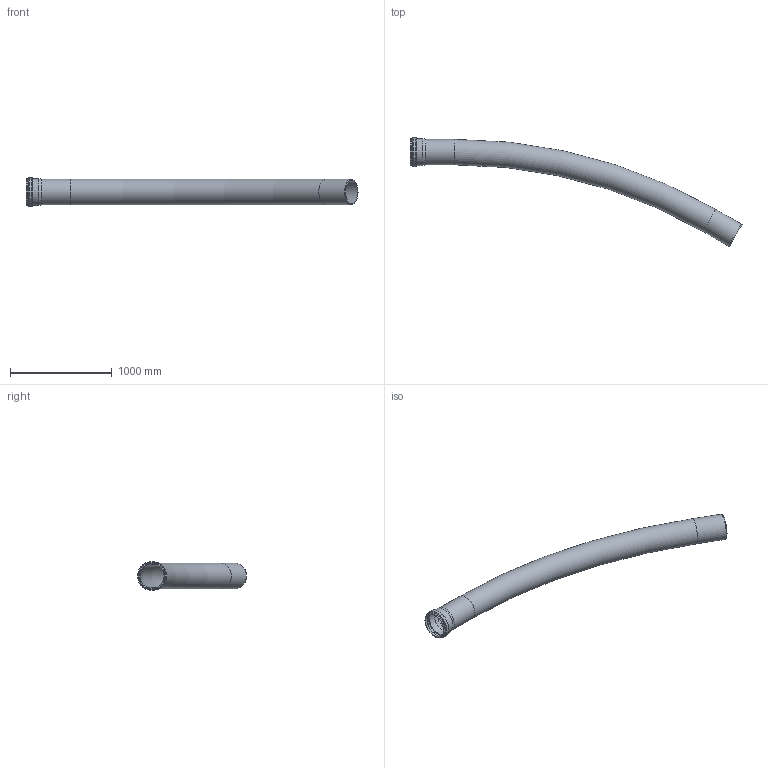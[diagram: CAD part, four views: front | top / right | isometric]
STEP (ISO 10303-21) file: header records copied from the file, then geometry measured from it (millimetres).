
FILE_DESCRIPTION(/* description */ (''),/* implementation_level */ '2;1');
FILE_NAME(/* name */ '734260z.stp',/* time_stamp */ '2026-05-08T11:18:26+02:00',/* author */ ('corinna'),/* organization */ (''),/* preprocessor_version */ 'ST-DEVELOPER v20',/* originating_system */ 'Autodesk Inventor 2024',/* authorisation */ '');
FILE_SCHEMA (('AUTOMOTIVE_DESIGN { 1 0 10303 214 3 1 1 }'));
Length unit declared in the file: millimetre
Products named in the file (1): 734260z
Bounding box: 3258.24 x 1068.87 x 285.2 mm (x, y, z)
Volume: 19682815.5 mm3; surface area: 5162975.6 mm2
Topology: 1 solids, 1 shells, 39 faces, 94 edges, 60 vertices
Faces by surface type: torus 16, cylinder 10, cone 8, plane 5
Full cylindrical faces by diameter (mm): 234.6 x2, 250 x2, 250.4 x1, 251 x1, 262 x1, 265 x1, 273.6 x1, 285.2 x1
Entity records: 1227 total; most frequent: DIRECTION 250, CARTESIAN_POINT 194, ORIENTED_EDGE 188, AXIS2_PLACEMENT_3D 116, EDGE_CURVE 94, CIRCLE 76, VERTEX_POINT 60, EDGE_LOOP 44
